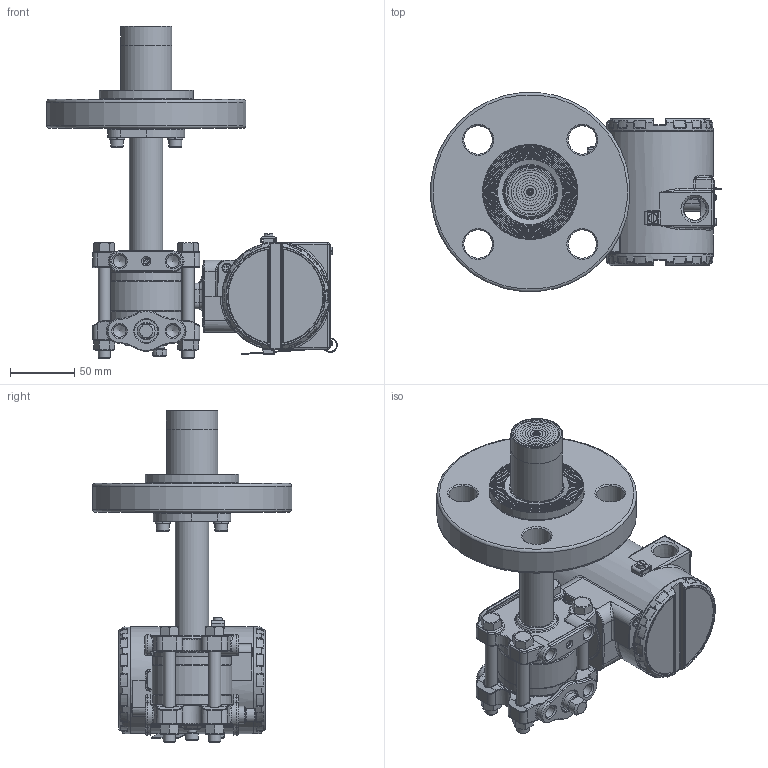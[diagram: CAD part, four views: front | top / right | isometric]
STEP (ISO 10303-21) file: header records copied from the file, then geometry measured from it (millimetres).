
FILE_DESCRIPTION(/* description */ (''),/* implementation_level */ '2;1');
FILE_NAME(/* name */ 'F:\Area\Desenvolvimento_2\Projects\Sensor\projetos\LD30X\montagens 3d - clientes\SELO NIVEL\LD30XL 1-1-2-600 RF ext 50 ref 1-4NPT purga acima.stp',/* time_stamp */ '2023-02-10T14:57:43-03:00',/* author */ ('inventor02'),/* organization */ (''),/* preprocessor_version */ 'ST-DEVELOPER v17',/* originating_system */ 'Autodesk Inventor 2019',/* authorisation */ '');
FILE_SCHEMA (('CONFIG_CONTROL_DESIGN'));
Products named in the file (41): LD30XL 1-1-2-600 RF ext 50 ref 1-4NPT purga acima; 204-0301-L-1-1-2 600 RF ext 50 purga acima; nivel fx3 com baixa diferencial 1-4NPT purga acima; involucro fx0-3 apos a usinagem final; flange diferencial std purga; 101-C-7484-01 flange selo nivel VR; 201-A-0504-tubo união teste 1; bujao 1-4NPT; Sangria; Porca 3-8 x 16 UNC; Paraf. 3-8 x 16 UNC; adaptação tubo x flanges 1-1-2 a 4pol; 101-B-0161-anel cortado do tubo - teste1; 101-B-0162-flange fixação tubo; ANSI B18.3.1M - M6x1 x 16; DIN 127 - A 6; flange 1-1-2 600 ext 50; 101-B-7699-01 ext 1-1-2-50; 101-B-5190-03; 101-C-3332-02; carcaça vazia com tampas e plaqueta; carcaça LD inox sem letras; Subconjunto plaqueta 300; Plaqueta transmissor; Parafuso da Plaqueta; Rebite da Plaqueta; 096-A-0169-03; 101-A-0502-01; Chapa aterramento externo; ISO 1207 - M4 x 8; DIN 915 - M6 x 10; ANSI B18.3.1M - M4x0,7 x 8; Subconjunto tampa com visor aluminio; tampa pintada; VIDRO DO VISOR; oring 41x1 vidro tampa; Trava do vidro da tampa com visor; trava do vidro VH256; Subconjunto tampa sem visor-aluminio; tampa cega 300 pintada p0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
Assembly tree (51 placements, depth 4):
  LD30XL 1-1-2-600 RF ext 50 ref 1-4NPT purga acima
    204-0301-L-1-1-2 600 RF ext 50 purga acima
      nivel fx3 com baixa diferencial 1-4NPT purga acima
        involucro fx0-3 apos a usinagem final
        flange diferencial std purga
        101-C-7484-01 flange selo nivel VR
        201-A-0504-tubo união teste 1
        DIN 915 - M6 x 10
        bujao 1-4NPT
        Sangria
        Porca 3-8 x 16 UNC  x4
        Paraf. 3-8 x 16 UNC  x4
      adaptação tubo x flanges 1-1-2 a 4pol
        101-B-0161-anel cortado do tubo - teste1
        101-B-0162-flange fixação tubo
        ANSI B18.3.1M - M6x1 x 16  x2
        DIN 127 - A 6  x2
      flange 1-1-2 600 ext 50
        101-B-7699-01 ext 1-1-2-50
        101-B-5190-03
        101-C-3332-02
    carcaça vazia com tampas e plaqueta
      carcaça LD inox sem letras
      Subconjunto plaqueta 300
        Plaqueta transmissor
        Parafuso da Plaqueta
        Rebite da Plaqueta
        096-A-0169-03
        101-A-0502-01
      Chapa aterramento externo
      ISO 1207 - M4 x 8
      DIN 915 - M6 x 10
      ANSI B18.3.1M - M4x0,7 x 8  x2
      Subconjunto tampa com visor aluminio
        tampa pintada
        VIDRO DO VISOR
        oring 41x1 vidro tampa
        Trava do vidro da tampa com visor
        trava do vidro VH256
        00034775-0
      Subconjunto tampa sem visor-aluminio
        tampa cega 300 pintada p0
        00034775-0
Bounding box: 225.49 x 154.41 x 257.6 mm (x, y, z)
Volume: 1040163 mm3; surface area: 323809.7 mm2
Topology: 43 solids, 43 shells, 2726 faces, 6537 edges, 3867 vertices
Faces by surface type: bspline 667, cylinder 656, plane 560, torus 469, cone 248, sphere 126
Full cylindrical faces by diameter (mm): 2 x4, 2.1 x2, 2.459 x5, 2.5 x1, 2.642 x1, 2.7 x1, 2.8 x1, 3 x4, 3.242 x4, 3.5 x5, 3.571 x1, 4 x5, 4.3 x1, 4.4 x1, 4.917 x4, 5 x1, 5.5 x3, 6 x6, 6.647 x1, 7 x7, 7.087 x2, 7.6 x2, 7.798 x4, 8 x1, 8.7 x2, 9.525 x4, 9.728 x6, 10 x2, 10.5 x8, 10.719 x2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
Entity records: 94293 total; most frequent: CARTESIAN_POINT 34605, DIRECTION 12303, ORIENTED_EDGE 12254, EDGE_CURVE 6127, AXIS2_PLACEMENT_3D 5430, VERTEX_POINT 3673, CIRCLE 3215, EDGE_LOOP 2766
